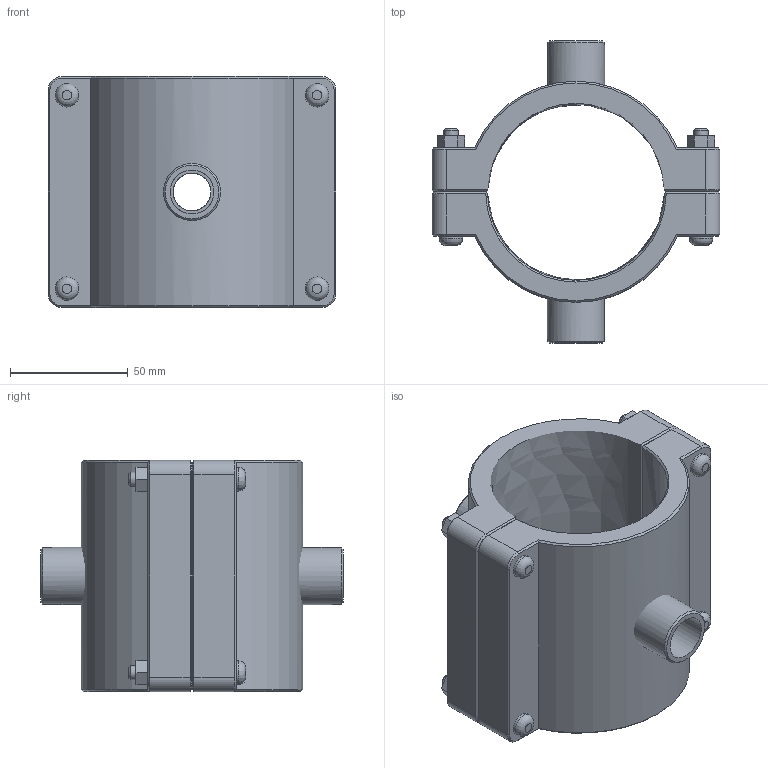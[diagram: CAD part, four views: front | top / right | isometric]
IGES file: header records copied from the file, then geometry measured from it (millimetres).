
Global section: file name: 161760075005_161860075005.ipt; native system: Autodesk Inventor 2015; preprocessor: unknown; author: KIM; date: 20170618.093711; units: millimetre
Bounding box: 122 x 128 x 98 mm (x, y, z)
Volume: 363693.2 mm3; surface area: 81872.5 mm2
Topology: 3 solids, 3 shells, 157 faces, 361 edges, 228 vertices
Faces by surface type: plane 86, cone 26, cylinder 24, revolution 21
Full cylindrical faces by diameter (mm): 6 x4, 10 x8, 24.22 x2
